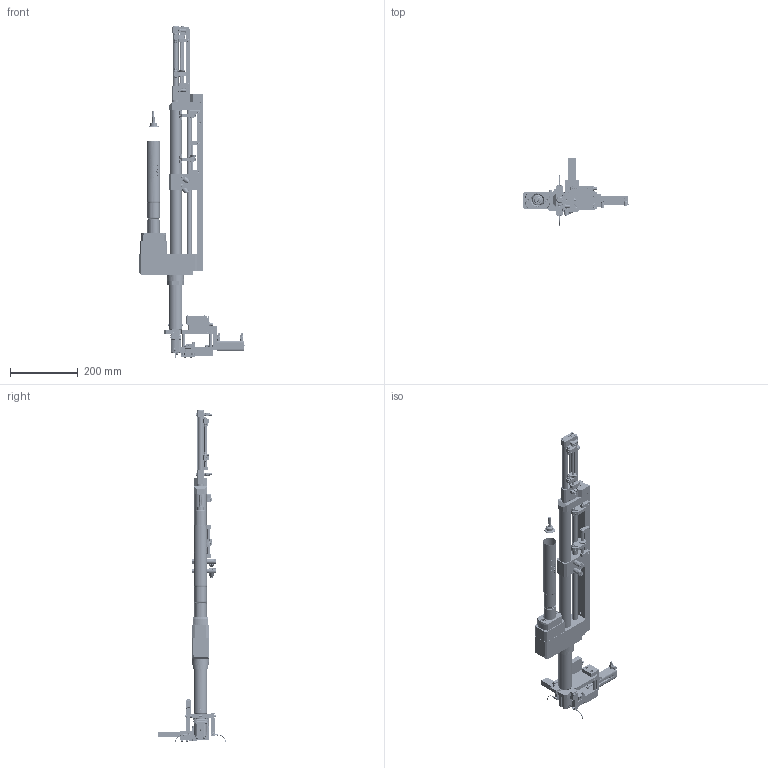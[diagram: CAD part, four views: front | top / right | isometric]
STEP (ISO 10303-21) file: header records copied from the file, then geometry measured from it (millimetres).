
FILE_DESCRIPTION(/* description */ ('© Copyright 2019 – Urheberrechtshinweis Diese CAD-Daten sind urheberrechtlich geschützt. Das Urheberrecht liegt, soweit nicht ausdrücklich anders gekennzeichnet, bei Stöger Automation GmbH. Bitte fragen Sie uns, falls Sie die CAD-Daten vervielfältigen oder','CAx-IF Rec.Pracs.---Representation and Presentation of Product Manufacturing Information (PMI)---4.0---2014-10-13'),/* implementation_level */ '2;1');
FILE_NAME(/* name */ 'H:\00_0 Arbeiten für Marketing\581270\3D_Step_file_SMZ 32.stp',/* time_stamp */ '2020-09-04T10:38:18+02:00',/* author */ ('Stöger Automation GmbH'),/* organization */ ('Stöger Automation GmbH'),/* preprocessor_version */ 'ST-DEVELOPER v17',/* originating_system */ 'Autodesk Inventor 2018',/* authorisation */ '');
FILE_SCHEMA (('AP242_MANAGED_MODEL_BASED_3D_ENGINEERING_MIM_LF { 1 0 10303 442 1 1 4 }'));
Products named in the file (1): 581270
Bounding box: 311 x 199.68 x 980.65 mm (x, y, z)
Volume: 2307092.4 mm3; surface area: 668191.9 mm2
Topology: 23 solids, 117 shells, 5988 faces, 16172 edges, 10751 vertices
Faces by surface type: plane 3129, cylinder 1330, bspline 789, cone 529, torus 174, sphere 37
Full cylindrical faces by diameter (mm): 1 x3, 1.2 x1, 1.5 x10, 1.8 x2, 2 x4, 2.013 x4, 2.2 x2, 2.3 x2, 2.38 x2, 2.4 x5, 2.42 x2, 2.459 x8, 2.48 x3, 2.5 x4, 2.9 x1, 3 x13, 3.02 x2, 3.242 x38, 3.4 x2, 3.6 x1, 3.8 x6, 4 x34, 4.02 x4, 4.1 x3, 4.134 x25, 4.2 x4, 4.3 x12, 4.4 x1, 4.5 x10, 4.917 x6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
Entity records: 374603 total; most frequent: CARTESIAN_POINT 224257, ORIENTED_EDGE 32126, DIRECTION 27324, EDGE_CURVE 16063, VERTEX_POINT 10753, AXIS2_PLACEMENT_3D 9878, LINE 7568, VECTOR 7568
